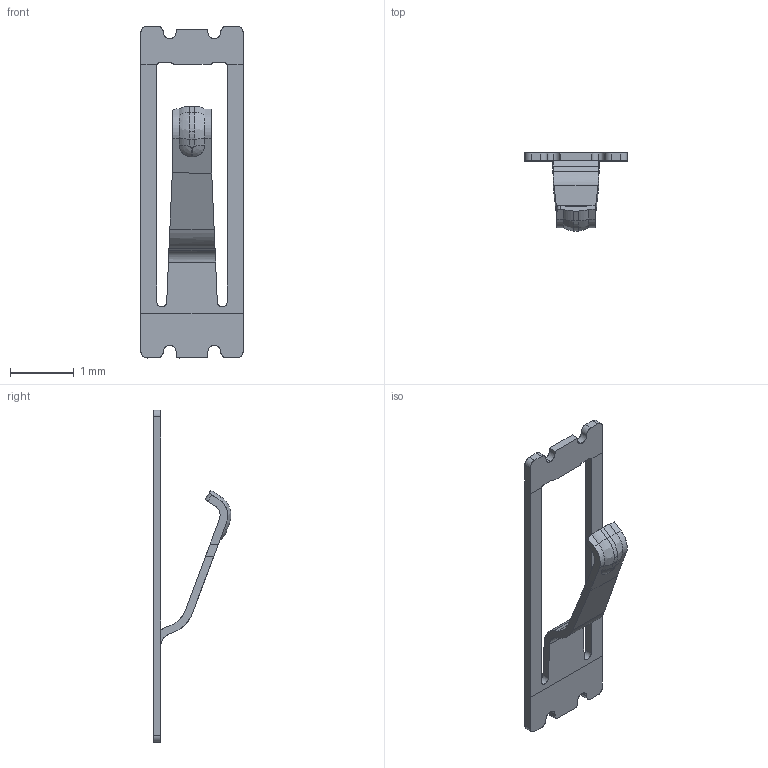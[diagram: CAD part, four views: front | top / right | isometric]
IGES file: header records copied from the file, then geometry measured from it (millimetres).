
Start section: SolidWorks IGES file using analytic representation for surfaces
Bounding box: 1.6 x 1.22 x 5.2 mm (x, y, z)
Surface area: 16.4 mm2 (no closed solid volume)
Topology: 0 solids, 0 shells, 92 faces, 690 edges, 690 vertices
Faces by surface type: bspline 51, revolution 41
